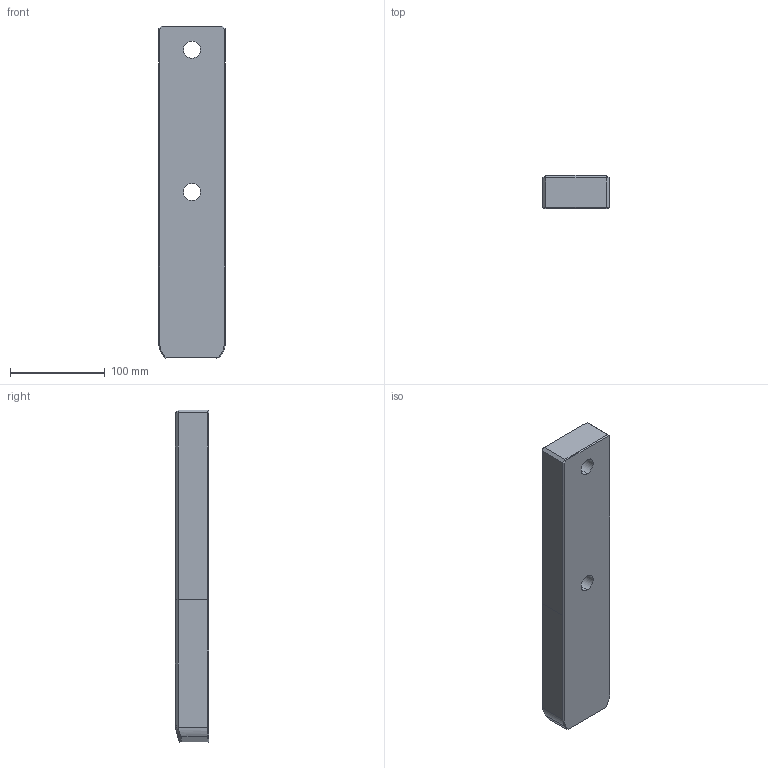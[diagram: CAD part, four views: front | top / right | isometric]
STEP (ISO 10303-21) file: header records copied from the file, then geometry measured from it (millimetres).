
FILE_DESCRIPTION((''),'2;1');
FILE_NAME('','2010-09-08T12:52:20+09:00',('misumi'),(''),'M/STEP i/f 1R2-14','CADmeister v5.1','');
FILE_SCHEMA(('AUTOMOTIVE_DESIGN'));
Length unit declared in the file: millimetre
Products named in the file (1): OGP70-350
Bounding box: 70 x 35 x 350 mm (x, y, z)
Volume: 828013.1 mm3; surface area: 79808.4 mm2
Topology: 1 solids, 1 shells, 49 faces, 114 edges, 68 vertices
Faces by surface type: plane 32, cylinder 9, cone 4, bspline 4
Entity records: 2151 total; most frequent: CARTESIAN_POINT 494, ORIENTED_EDGE 224, DIRECTION 216, COLOUR_RGB 121, CURVE_STYLE 118, PRESENTATION_STYLE_ASSIGNMENT 117, OVER_RIDING_STYLED_ITEM 114, EDGE_CURVE 112
